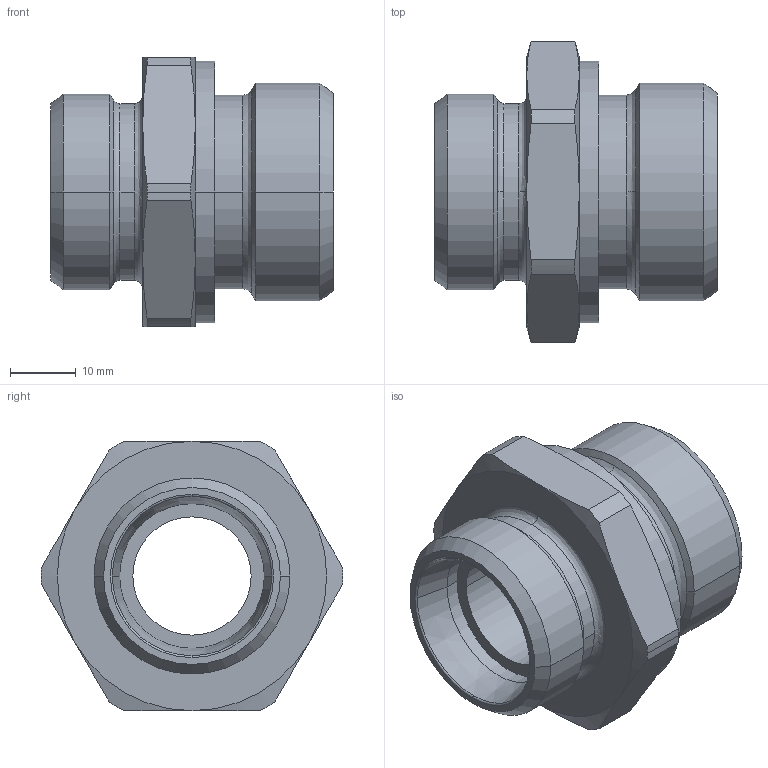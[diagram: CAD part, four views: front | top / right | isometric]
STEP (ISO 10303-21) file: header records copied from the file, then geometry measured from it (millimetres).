
FILE_DESCRIPTION((''),'2;1');
FILE_NAME('100550.stp','2007-10-30T14:22:41',(''),(''),'AutoCAD STEP 2000i','AutoCAD 2000i',', , ');
FILE_SCHEMA(('CONFIG_CONTROL_DESIGN'));
Length unit declared in the file: millimetre
Products named in the file (2): 100550.0; CHIAVE SMUSSATA#0
Assembly tree (1 placements, depth 2):
  100550.0
    CHIAVE SMUSSATA#0
Bounding box: 43 x 45.9 x 41 mm (x, y, z)
Volume: 25841.1 mm3; surface area: 9800.5 mm2
Topology: 1 solids, 1 shells, 75 faces, 185 edges, 117 vertices
Faces by surface type: cylinder 24, cone 24, plane 13, bspline 12, torus 2
Entity records: 2835 total; most frequent: CARTESIAN_POINT 955, DIRECTION 410, ORIENTED_EDGE 370, EDGE_CURVE 185, AXIS2_PLACEMENT_3D 184, CIRCLE 119, VERTEX_POINT 117, EDGE_LOOP 82
